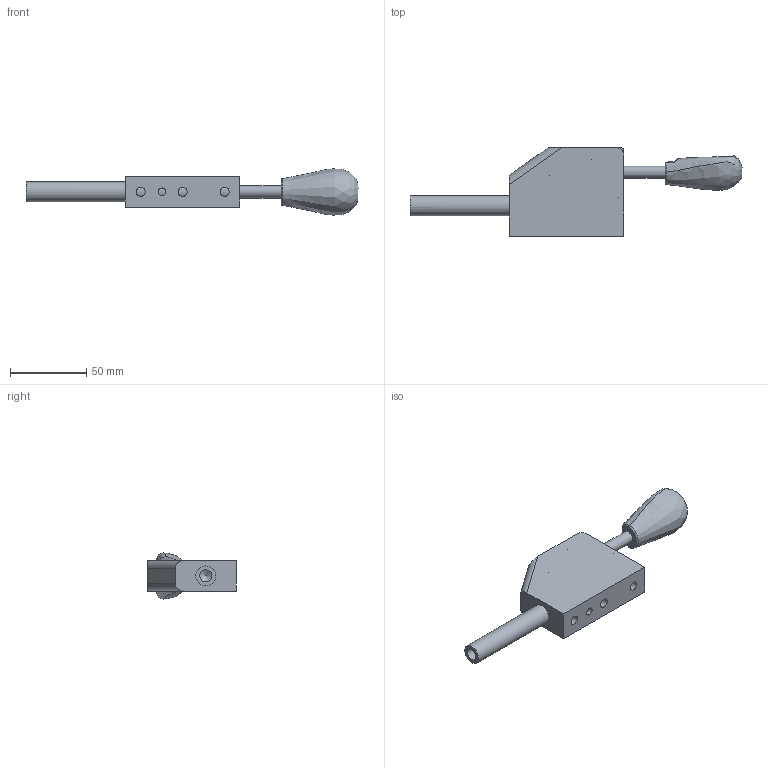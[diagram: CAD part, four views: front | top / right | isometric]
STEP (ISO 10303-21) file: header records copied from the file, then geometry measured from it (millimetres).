
FILE_DESCRIPTION(/* description */ (''),/* implementation_level */ '2;1');
FILE_NAME(/* name */ '\\192.168.1.150\pc03\Inventor\デュアルメカニズムクランプ最終\2017.10月　最新型\YSP-50ST\YSP-50ST-CLAMP.stp',/* time_stamp */ '2024-05-14T17:32:26+09:00',/* author */ ('Backup'),/* organization */ (''),/* preprocessor_version */ 'ST-DEVELOPER v17',/* originating_system */ 'Autodesk Inventor 2019',/* authorisation */ '');
FILE_SCHEMA (('AUTOMOTIVE_DESIGN { 1 0 10303 214 3 1 1 }'));
Length unit declared in the file: millimetre
Products named in the file (6): YSP-50ST-CLAMP; YO-M35S ボディ; 50-30_VER4_PG2__12; Φ8×40ｼｬﾌﾄ; YO-M35S　カム; YO－M３５S スライドバー
Assembly tree (5 placements, depth 2):
  YSP-50ST-CLAMP
    YO-M35S ボディ
    50-30_VER4_PG2__12
    Φ8×40ｼｬﾌﾄ
    YO-M35S　カム
    YO－M３５S スライドバー
Bounding box: 217.25 x 58 x 30.18 mm (x, y, z)
Volume: 99769.9 mm3; surface area: 38463.7 mm2
Topology: 5 solids, 5 shells, 193 faces, 534 edges, 354 vertices
Faces by surface type: plane 93, cylinder 69, bspline 24, sphere 4, cone 3
Full cylindrical faces by diameter (mm): 0.01 x11, 1.306 x1, 5 x2, 5.1 x1, 6 x4, 8 x3, 13 x2
Entity records: 16514 total; most frequent: CARTESIAN_POINT 11381, ORIENTED_EDGE 1060, DIRECTION 983, EDGE_CURVE 530, VERTEX_POINT 354, AXIS2_PLACEMENT_3D 351, LINE 281, VECTOR 281
